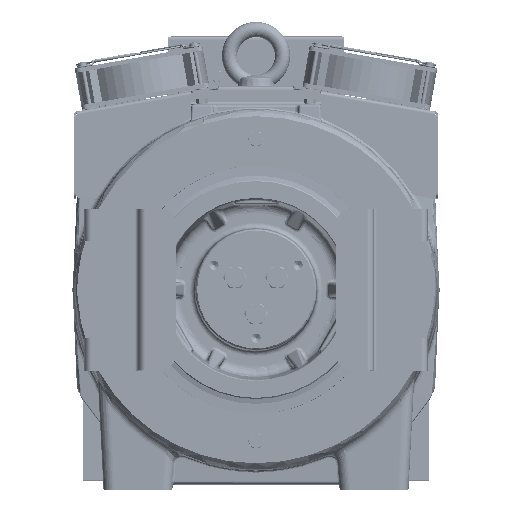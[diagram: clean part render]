
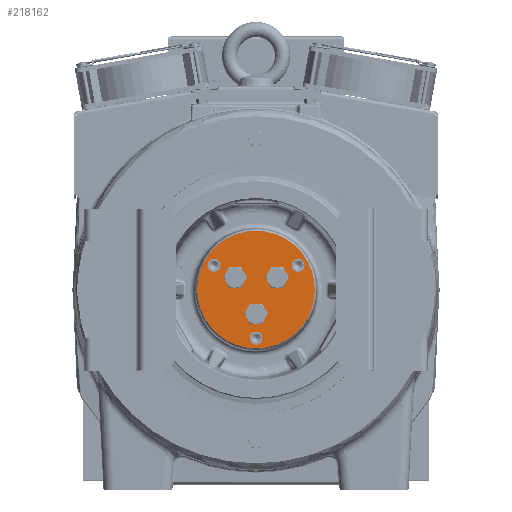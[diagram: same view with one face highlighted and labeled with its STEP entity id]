
A CAD part, top view. The second image highlights one B-rep face of the part: STEP entity #218162.
In plain terms, the highlighted planar face has unit normal (0, 0, 1) as drawn and (0, -1, 0) by its records, which use the part's own axes.
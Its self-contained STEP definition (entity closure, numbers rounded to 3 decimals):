
#217819=CARTESIAN_POINT('',(0.,0.,
0.));
#217820=DIRECTION('',(0.,-1.,0.));
#217821=DIRECTION('',(-1.,0.,0.));
#217822=AXIS2_PLACEMENT_3D('',#217819,#217820,#217821);
#217824=CARTESIAN_POINT('',(0.,0.,
0.));
#217825=DIRECTION('',(0.,-1.,0.));
#217826=DIRECTION('',(1.,0.,0.));
#217827=AXIS2_PLACEMENT_3D('',#217824,#217825,#217826);
#217829=CARTESIAN_POINT('',(0.,0.,-22.5));
#217830=DIRECTION('',(0.,-1.,0.));
#217831=DIRECTION('',(1.,0.,0.));
#217832=AXIS2_PLACEMENT_3D('',#217829,#217830,#217831);
#217834=CARTESIAN_POINT('',(0.,0.,-22.5));
#217835=DIRECTION('',(0.,-1.,0.));
#217836=DIRECTION('',(-1.,0.,0.));
#217837=AXIS2_PLACEMENT_3D('',#217834,#217835,#217836);
#217839=CARTESIAN_POINT('',(19.486,0.,11.25));
#217840=DIRECTION('',(0.,-1.,0.));
#217841=DIRECTION('',(-0.5,0.,0.866));
#217842=AXIS2_PLACEMENT_3D('',#217839,#217840,#217841);
#217844=CARTESIAN_POINT('',(19.486,0.,11.25));
#217845=DIRECTION('',(0.,-1.,0.));
#217846=DIRECTION('',(0.5,0.,-0.866));
#217847=AXIS2_PLACEMENT_3D('',#217844,#217845,#217846);
#217849=CARTESIAN_POINT('',(-19.486,0.,11.25));
#217850=DIRECTION('',(0.,-1.,0.));
#217851=DIRECTION('',(-0.5,0.,-0.866));
#217852=AXIS2_PLACEMENT_3D('',#217849,#217850,#217851);
#217854=CARTESIAN_POINT('',(-19.486,0.,11.25));
#217855=DIRECTION('',(0.,-1.,0.));
#217856=DIRECTION('',(0.5,0.,0.866));
#217857=AXIS2_PLACEMENT_3D('',#217854,#217855,#217856);
#217859=CARTESIAN_POINT('',(0.,0.,-45.));
#217860=DIRECTION('',(0.,-1.,0.));
#217861=DIRECTION('',(1.,0.,0.));
#217862=AXIS2_PLACEMENT_3D('',#217859,#217860,#217861);
#217864=CARTESIAN_POINT('',(0.,0.,-45.));
#217865=DIRECTION('',(0.,-1.,0.));
#217866=DIRECTION('',(-1.,0.,0.));
#217867=AXIS2_PLACEMENT_3D('',#217864,#217865,#217866);
#217869=CARTESIAN_POINT('',(38.971,0.,22.5));
#217870=DIRECTION('',(0.,-1.,0.));
#217871=DIRECTION('',(-0.5,0.,0.866));
#217872=AXIS2_PLACEMENT_3D('',#217869,#217870,#217871);
#217874=CARTESIAN_POINT('',(38.971,0.,22.5));
#217875=DIRECTION('',(0.,-1.,0.));
#217876=DIRECTION('',(0.5,0.,-0.866));
#217877=AXIS2_PLACEMENT_3D('',#217874,#217875,#217876);
#217879=CARTESIAN_POINT('',(-38.971,0.,22.5));
#217880=DIRECTION('',(0.,-1.,0.));
#217881=DIRECTION('',(-0.5,0.,-0.866));
#217882=AXIS2_PLACEMENT_3D('',#217879,#217880,#217881);
#217884=CARTESIAN_POINT('',(-38.971,0.,22.5));
#217885=DIRECTION('',(0.,-1.,0.));
#217886=DIRECTION('',(0.5,0.,0.866));
#217887=AXIS2_PLACEMENT_3D('',#217884,#217885,#217886);
#218063=CARTESIAN_POINT('',(6.5,0.,-22.5));
#218064=CARTESIAN_POINT('',(-6.5,0.,-22.5));
#218065=VERTEX_POINT('',#218063);
#218066=VERTEX_POINT('',#218064);
#218071=CARTESIAN_POINT('',(16.236,0.,16.879));
#218072=CARTESIAN_POINT('',(22.736,0.,5.621));
#218073=VERTEX_POINT('',#218071);
#218074=VERTEX_POINT('',#218072);
#218079=CARTESIAN_POINT('',(-22.736,0.,5.621));
#218080=CARTESIAN_POINT('',(-16.236,0.,16.879));
#218081=VERTEX_POINT('',#218079);
#218082=VERTEX_POINT('',#218080);
#218087=CARTESIAN_POINT('',(6.,0.,-45.));
#218088=CARTESIAN_POINT('',(-6.,0.,-45.));
#218089=VERTEX_POINT('',#218087);
#218090=VERTEX_POINT('',#218088);
#218095=CARTESIAN_POINT('',(35.971,0.,27.696));
#218096=CARTESIAN_POINT('',(41.971,0.,17.304));
#218097=VERTEX_POINT('',#218095);
#218098=VERTEX_POINT('',#218096);
#218103=CARTESIAN_POINT('',(-41.971,0.,17.304));
#218104=CARTESIAN_POINT('',(-35.971,0.,27.696));
#218105=VERTEX_POINT('',#218103);
#218106=VERTEX_POINT('',#218104);
#218111=CARTESIAN_POINT('',(-54.5,0.,0.));
#218112=CARTESIAN_POINT('',(54.5,0.,0.));
#218113=VERTEX_POINT('',#218111);
#218114=VERTEX_POINT('',#218112);
#218115=CARTESIAN_POINT('',(0.,0.,0.));
#218116=DIRECTION('',(0.,-1.,0.));
#218117=DIRECTION('',(-1.,0.,0.));
#218118=AXIS2_PLACEMENT_3D('',#218115,#218116,#218117);
#218119=PLANE('',#218118);
#218121=ORIENTED_EDGE('',*,*,#218120,.F.);
#218123=ORIENTED_EDGE('',*,*,#218122,.F.);
#218124=EDGE_LOOP('',(#218121,#218123));
#218125=FACE_OUTER_BOUND('',#218124,.F.);
#218127=ORIENTED_EDGE('',*,*,#218126,.T.);
#218129=ORIENTED_EDGE('',*,*,#218128,.T.);
#218130=EDGE_LOOP('',(#218127,#218129));
#218131=FACE_BOUND('',#218130,.F.);
#218133=ORIENTED_EDGE('',*,*,#218132,.T.);
#218135=ORIENTED_EDGE('',*,*,#218134,.T.);
#218136=EDGE_LOOP('',(#218133,#218135));
#218137=FACE_BOUND('',#218136,.F.);
#218139=ORIENTED_EDGE('',*,*,#218138,.T.);
#218141=ORIENTED_EDGE('',*,*,#218140,.T.);
#218142=EDGE_LOOP('',(#218139,#218141));
#218143=FACE_BOUND('',#218142,.F.);
#218145=ORIENTED_EDGE('',*,*,#218144,.T.);
#218147=ORIENTED_EDGE('',*,*,#218146,.T.);
#218148=EDGE_LOOP('',(#218145,#218147));
#218149=FACE_BOUND('',#218148,.F.);
#218151=ORIENTED_EDGE('',*,*,#218150,.T.);
#218153=ORIENTED_EDGE('',*,*,#218152,.T.);
#218154=EDGE_LOOP('',(#218151,#218153));
#218155=FACE_BOUND('',#218154,.F.);
#218157=ORIENTED_EDGE('',*,*,#218156,.T.);
#218159=ORIENTED_EDGE('',*,*,#218158,.T.);
#218160=EDGE_LOOP('',(#218157,#218159));
#218161=FACE_BOUND('',#218160,.F.);
#218162=ADVANCED_FACE('',(#218125,#218131,#218137,#218143,#218149,#218155,
#218161),#218119,.T.);
#217823=CIRCLE('',#217822,54.5);
#217828=CIRCLE('',#217827,54.5);
#217833=CIRCLE('',#217832,6.5);
#217838=CIRCLE('',#217837,6.5);
#217843=CIRCLE('',#217842,6.5);
#217848=CIRCLE('',#217847,6.5);
#217853=CIRCLE('',#217852,6.5);
#217858=CIRCLE('',#217857,6.5);
#217863=CIRCLE('',#217862,6.);
#217868=CIRCLE('',#217867,6.);
#217873=CIRCLE('',#217872,6.);
#217878=CIRCLE('',#217877,6.);
#217883=CIRCLE('',#217882,6.);
#217888=CIRCLE('',#217887,6.);
#218120=EDGE_CURVE('',#218113,#218114,#217823,.T.);
#218122=EDGE_CURVE('',#218114,#218113,#217828,.T.);
#218126=EDGE_CURVE('',#218065,#218066,#217833,.T.);
#218128=EDGE_CURVE('',#218066,#218065,#217838,.T.);
#218132=EDGE_CURVE('',#218073,#218074,#217843,.T.);
#218134=EDGE_CURVE('',#218074,#218073,#217848,.T.);
#218138=EDGE_CURVE('',#218081,#218082,#217853,.T.);
#218140=EDGE_CURVE('',#218082,#218081,#217858,.T.);
#218144=EDGE_CURVE('',#218089,#218090,#217863,.T.);
#218146=EDGE_CURVE('',#218090,#218089,#217868,.T.);
#218150=EDGE_CURVE('',#218097,#218098,#217873,.T.);
#218152=EDGE_CURVE('',#218098,#218097,#217878,.T.);
#218156=EDGE_CURVE('',#218105,#218106,#217883,.T.);
#218158=EDGE_CURVE('',#218106,#218105,#217888,.T.);
